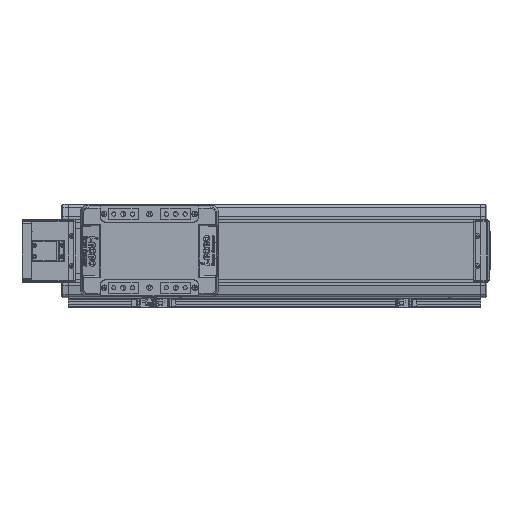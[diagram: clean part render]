
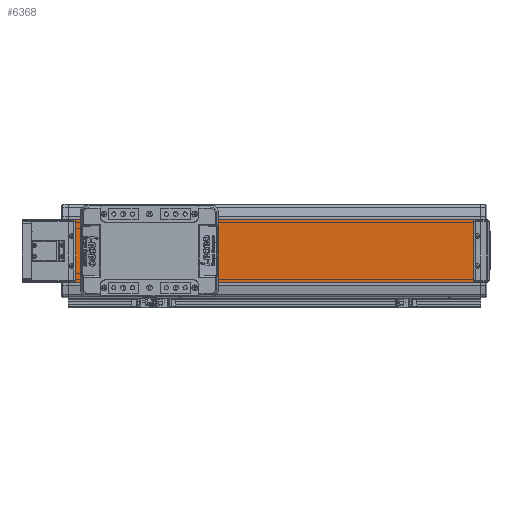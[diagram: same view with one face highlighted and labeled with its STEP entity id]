
A CAD part, top view. The second image highlights one B-rep face of the part: STEP entity #6368.
In plain terms, the highlighted planar face has unit normal (0, 0, 1).
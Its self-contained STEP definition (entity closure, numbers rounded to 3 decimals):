
#6368=ADVANCED_FACE('',(#14623),#14624,.F.);
#14623=FACE_OUTER_BOUND('',#26134,.T.);
#14624=PLANE('',#26135);
#26134=EDGE_LOOP('',(#44161,#44162,#44163,#44164));
#26135=AXIS2_PLACEMENT_3D('',#44165,#44166,#44167);
#44161=ORIENTED_EDGE('',*,*,#69386,.F.);
#44162=ORIENTED_EDGE('',*,*,#69893,.F.);
#44163=ORIENTED_EDGE('',*,*,#70327,.F.);
#44164=ORIENTED_EDGE('',*,*,#70328,.T.);
#44165=CARTESIAN_POINT('',(0.,0.,26.));
#44166=DIRECTION('',(0.,0.,-1.0));
#44167=DIRECTION('',(0.,1.0,0.));
#69386=EDGE_CURVE('',#84524,#84526,#84527,.T.);
#69893=EDGE_CURVE('',#85304,#84524,#85306,.T.);
#70327=EDGE_CURVE('',#85968,#85304,#85969,.T.);
#70328=EDGE_CURVE('',#85968,#84526,#85970,.T.);
#84524=VERTEX_POINT('',#104800);
#84526=VERTEX_POINT('',#104803);
#84527=LINE('',#104804,#104805);
#85304=VERTEX_POINT('',#105906);
#85306=LINE('',#105909,#105910);
#85968=VERTEX_POINT('',#106866);
#85969=LINE('',#106867,#106868);
#85970=LINE('',#106869,#106870);
#104800=CARTESIAN_POINT('',(660.0,50.,26.));
#104803=CARTESIAN_POINT('',(660.0,-50.,26.));
#104804=CARTESIAN_POINT('',(660.0,-50.,26.));
#104805=VECTOR('',#125193,10.0);
#105906=CARTESIAN_POINT('',(0.,50.,26.));
#105909=CARTESIAN_POINT('',(0.,50.,26.));
#105910=VECTOR('',#125915,10.0);
#106866=CARTESIAN_POINT('',(0.,-50.,26.));
#106867=CARTESIAN_POINT('',(0.,-50.,26.));
#106868=VECTOR('',#126540,10.0);
#106869=CARTESIAN_POINT('',(0.,-50.,26.));
#106870=VECTOR('',#126541,10.0);
#125193=DIRECTION('',(0.,-1.0,0.));
#125915=DIRECTION('',(1.0,0.,0.));
#126540=DIRECTION('',(0.,1.0,0.));
#126541=DIRECTION('',(1.0,0.,0.));
